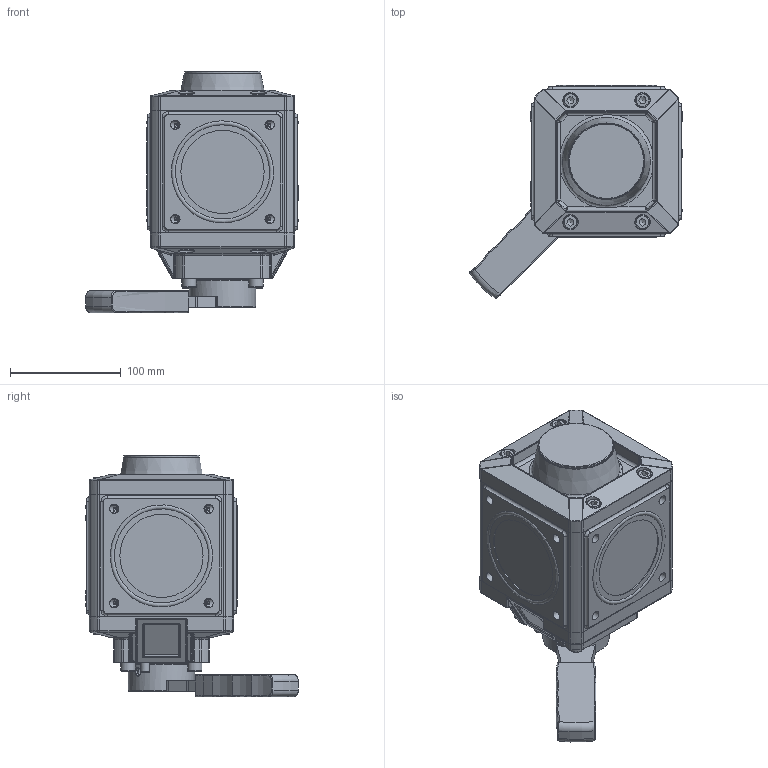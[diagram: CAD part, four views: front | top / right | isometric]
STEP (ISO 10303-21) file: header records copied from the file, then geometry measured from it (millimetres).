
FILE_DESCRIPTION(/* description */ (''),/* implementation_level */ '2;1');
FILE_NAME(/* name */ 'E:\WorkSpace\Designs\1600-1649\1700056.stp',/* time_stamp */ '2022-05-23T11:51:12+02:00',/* author */ ('JJ'),/* organization */ (''),/* preprocessor_version */ 'ST-DEVELOPER v18.1',/* originating_system */ 'Autodesk Inventor 2022',/* authorisation */ '');
FILE_SCHEMA (('AUTOMOTIVE_DESIGN { 1 0 10303 214 3 1 1 }'));
Length unit declared in the file: millimetre
Products named in the file (1): 1700056
Bounding box: 191.78 x 191.88 x 217.8 mm (x, y, z)
Volume: 2784994.7 mm3; surface area: 201564.8 mm2
Topology: 1 solids, 15 shells, 1035 faces, 2422 edges, 1466 vertices
Faces by surface type: cylinder 385, plane 312, bspline 123, torus 110, cone 89, sphere 16
Full cylindrical faces by diameter (mm): 6.647 x2, 8 x12, 8.376 x16, 8.5 x10, 13 x12, 14 x8, 16 x2, 28 x1, 30 x2, 40 x2, 55 x2, 58 x2, 60 x1, 62 x2, 68 x1, 75 x4
Entity records: 34332 total; most frequent: CARTESIAN_POINT 9969, DIRECTION 4932, ORIENTED_EDGE 4782, EDGE_CURVE 2391, AXIS2_PLACEMENT_3D 1990, VERTEX_POINT 1466, EDGE_LOOP 1159, FACE_OUTER_BOUND 1035
